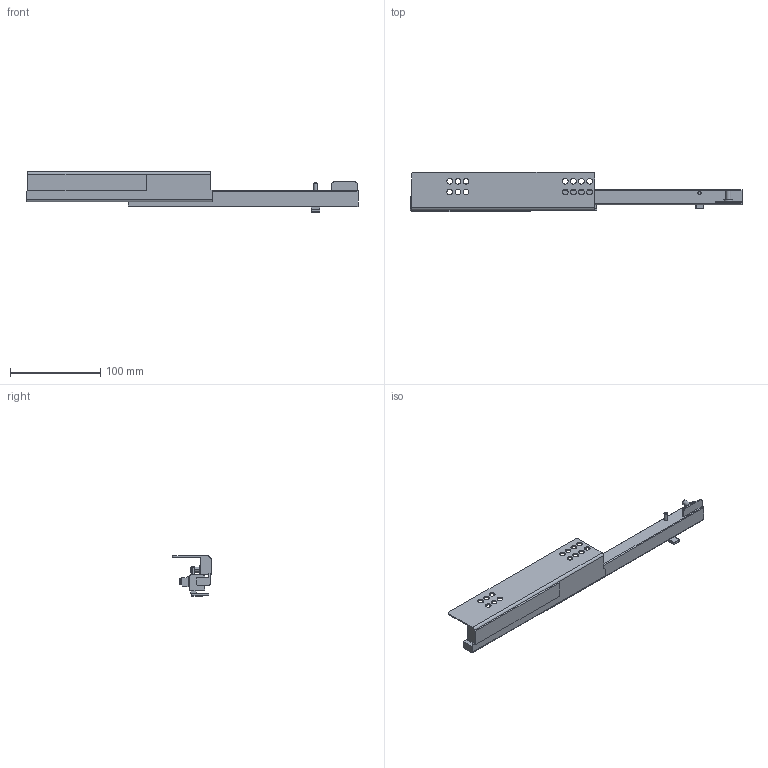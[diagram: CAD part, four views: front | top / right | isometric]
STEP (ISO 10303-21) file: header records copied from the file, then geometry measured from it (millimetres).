
FILE_DESCRIPTION (( 'STEP AP203' ), '1' );
FILE_NAME ('GG10270H-L-DTC3D-open.STEP', '2021-07-02T00:52:46', ( 'df' ), ( 'Microsoft' ), 'SwSTEP 2.0', 'SolidWorks 2018', '' );
FILE_SCHEMA (( 'CONFIG_CONTROL_DESIGN' ));
Length unit declared in the file: millimetre
Products named in the file (1): GG10270H-L-DTC3D-open
Bounding box: 368.1 x 44.1 x 44.73 mm (x, y, z)
Volume: 148832.5 mm3; surface area: 52236.1 mm2
Topology: 1 solids, 1 shells, 160 faces, 447 edges, 289 vertices
Faces by surface type: plane 76, cylinder 76, bspline 4, sphere 2, cone 2
Entity records: 5334 total; most frequent: CARTESIAN_POINT 1061, ORIENTED_EDGE 890, DIRECTION 871, EDGE_CURVE 445, AXIS2_PLACEMENT_3D 299, VERTEX_POINT 289, LINE 273, VECTOR 273
